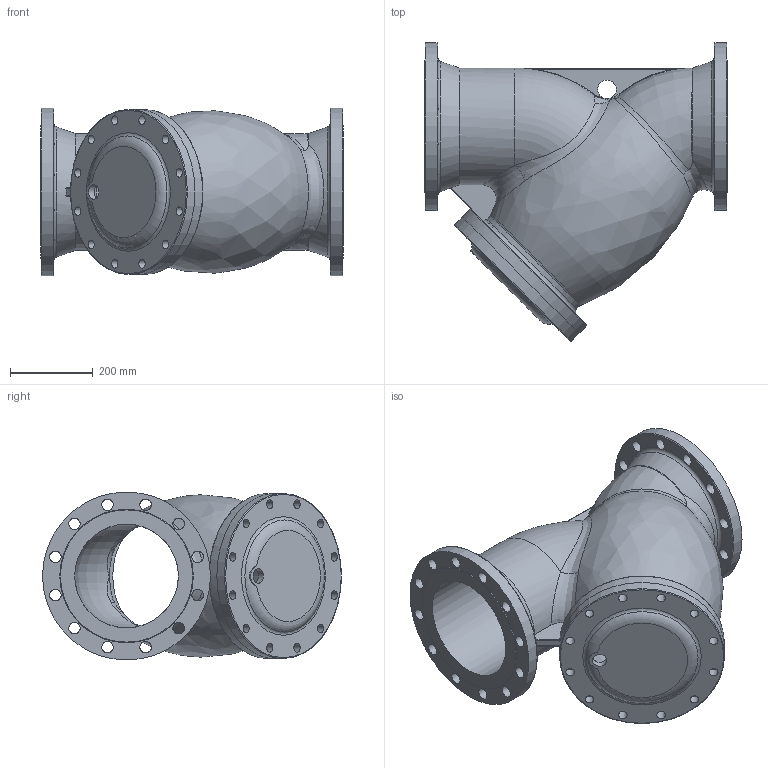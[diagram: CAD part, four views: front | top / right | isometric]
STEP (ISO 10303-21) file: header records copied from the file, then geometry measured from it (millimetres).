
FILE_DESCRIPTION(/* description */ ('STEP AP203'),/* implementation_level */ '2;1');
FILE_NAME(/* name */ '',/* time_stamp */ '2024-12-10T11:50:18+07:00',/* author */ ('Eva'),/* organization */ (''),/* preprocessor_version */ 'ST-DEVELOPER v20',/* originating_system */ 'Autodesk Inventor 2025',/* authorisation */ '');
FILE_SCHEMA (('AUTOMOTIVE_DESIGN { 1 0 10303 214 3 1 1 }'));
Length unit declared in the file: metre
Products named in the file (4): 德标过滤器250装配体1; 德标过滤器250装配体1(2
); 250阀体; 250阀盖
Assembly tree (3 placements, depth 3):
  德标过滤器250装配体1
    德标过滤器250装配体1(2
)
      250阀体
      250阀盖
Bounding box: 730 x 720.68 x 405 mm (x, y, z)
Volume: 23532608.3 mm3; surface area: 2554868.6 mm2
Topology: 2 solids, 2 shells, 149 faces, 467 edges, 302 vertices
Faces by surface type: cylinder 67, bspline 41, plane 21, torus 15, cone 5
Full cylindrical faces by diameter (mm): 21 x24, 28 x24, 35 x1, 45 x1, 250 x2, 266 x1, 267 x1, 398 x2, 405 x2
Entity records: 25910 total; most frequent: CARTESIAN_POINT 21657, ORIENTED_EDGE 932, DIRECTION 797, EDGE_CURVE 466, AXIS2_PLACEMENT_3D 357, VERTEX_POINT 302, CIRCLE 238, EDGE_LOOP 234
